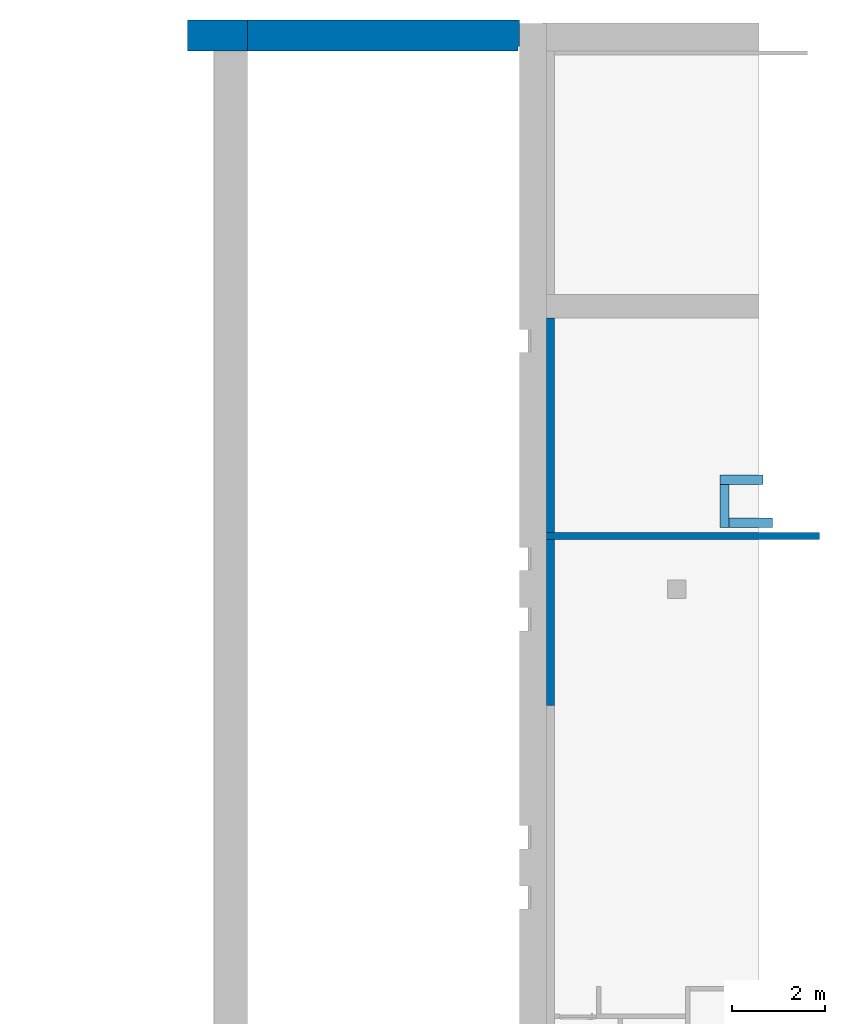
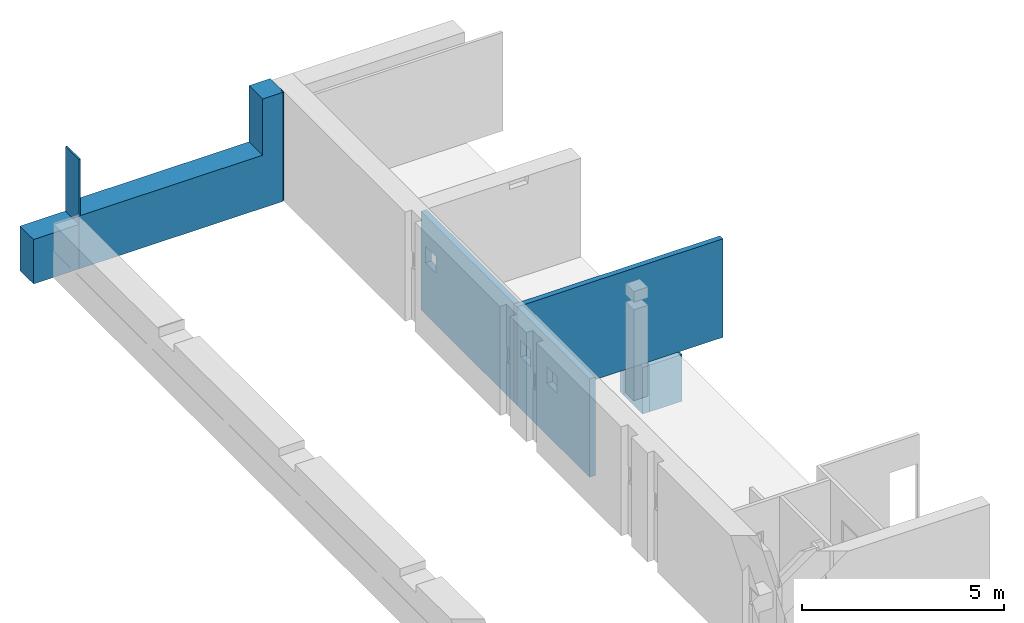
# One storey, part 8 of 11: 7 walls, 18 openings.
"""IFC2X3 building model written with IfcOpenShell, lengths in millimetres."""

from ifc_helpers import new_model, entity, si_unit, converted_unit, derived_unit, direction, frame, frame_2d, origin, origin_2d_with_axis, place, context, subcontext, project, spatial, polyline, circle_curve, parameter, trimmed, segment, composite_curve, rectangle, outline, extrude, material, layer, layer_set, layer_usage, type_object, element, save


model = new_model("IFC2X3")

# Units and contexts
model_context = context("Model", 3, precision=0.01, world=origin(), true_north=direction((6.123031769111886e-17, 1.0)))
body_context = subcontext(model_context, "Body", "Model", "MODEL_VIEW")
ifc_project = project(units=[si_unit("LENGTHUNIT", "METRE", prefix="MILLI"), si_unit("AREAUNIT", "SQUARE_METRE"), si_unit("VOLUMEUNIT", "CUBIC_METRE"), converted_unit("PLANEANGLEUNIT", "DEGREE", entity("IfcPlaneAngleMeasure", 0.017453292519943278), si_unit("PLANEANGLEUNIT", "RADIAN"), dimensions=[0, 0, 0, 0, 0, 0, 0]), si_unit("MASSUNIT", "GRAM", prefix="KILO"), derived_unit("MASSDENSITYUNIT", [(si_unit("MASSUNIT", "GRAM", prefix="KILO"), 1), (si_unit("LENGTHUNIT", "METRE"), -3)]), derived_unit("IONCONCENTRATIONUNIT", [(si_unit("MASSUNIT", "GRAM", prefix="KILO"), 1), (si_unit("LENGTHUNIT", "METRE"), -3)]), derived_unit("MOMENTOFINERTIAUNIT", [(si_unit("LENGTHUNIT", "METRE"), 4)]), si_unit("TIMEUNIT", "SECOND"), si_unit("FREQUENCYUNIT", "HERTZ"), si_unit("THERMODYNAMICTEMPERATUREUNIT", "DEGREE_CELSIUS"), derived_unit("THERMALTRANSMITTANCEUNIT", [(si_unit("MASSUNIT", "GRAM", prefix="KILO"), 1), (si_unit("THERMODYNAMICTEMPERATUREUNIT", "KELVIN"), -1), (si_unit("TIMEUNIT", "SECOND"), -3)]), derived_unit("THERMALCONDUCTANCEUNIT", [(si_unit("MASSUNIT", "GRAM", prefix="KILO"), 1), (si_unit("THERMODYNAMICTEMPERATUREUNIT", "KELVIN"), -1), (si_unit("TIMEUNIT", "SECOND"), -3), (si_unit("LENGTHUNIT", "METRE"), 1)]), derived_unit("VOLUMETRICFLOWRATEUNIT", [(si_unit("LENGTHUNIT", "METRE", prefix="DECI"), 3), (si_unit("TIMEUNIT", "SECOND"), -1)]), derived_unit("MASSFLOWRATEUNIT", [(si_unit("MASSUNIT", "GRAM", prefix="KILO"), 1), (si_unit("TIMEUNIT", "SECOND"), -1)]), derived_unit("ROTATIONALFREQUENCYUNIT", [(si_unit("TIMEUNIT", "SECOND"), -1)]), si_unit("ELECTRICCURRENTUNIT", "AMPERE"), si_unit("ELECTRICVOLTAGEUNIT", "VOLT"), si_unit("POWERUNIT", "WATT"), si_unit("FORCEUNIT", "NEWTON", prefix="KILO"), si_unit("ILLUMINANCEUNIT", "LUX"), si_unit("LUMINOUSFLUXUNIT", "LUMEN"), si_unit("LUMINOUSINTENSITYUNIT", "CANDELA"), si_unit("ENERGYUNIT", "JOULE"), derived_unit("USERDEFINED", [(si_unit("MASSUNIT", "GRAM", prefix="KILO"), -1), (si_unit("LENGTHUNIT", "METRE"), -2), (si_unit("TIMEUNIT", "SECOND"), 3), (si_unit("LUMINOUSFLUXUNIT", "LUMEN"), 1)]), derived_unit("USERDEFINED", [(si_unit("MASSUNIT", "GRAM", prefix="KILO"), 1), (si_unit("TIMEUNIT", "SECOND"), -3), (si_unit("LENGTHUNIT", "METRE"), 3), (si_unit("ELECTRICCURRENTUNIT", "AMPERE"), -2)]), derived_unit("SOUNDPOWERUNIT", [(si_unit("MASSUNIT", "GRAM", prefix="KILO"), 1), (si_unit("TIMEUNIT", "SECOND"), -3), (si_unit("LENGTHUNIT", "METRE"), 2)]), derived_unit("SOUNDPRESSUREUNIT", [(si_unit("MASSUNIT", "GRAM", prefix="KILO"), 1), (si_unit("LENGTHUNIT", "METRE"), -1), (si_unit("TIMEUNIT", "SECOND"), -2)]), derived_unit("LINEARVELOCITYUNIT", [(si_unit("LENGTHUNIT", "METRE"), 1), (si_unit("TIMEUNIT", "SECOND"), -1)]), si_unit("PRESSUREUNIT", "PASCAL"), derived_unit("USERDEFINED", [(si_unit("MASSUNIT", "GRAM", prefix="KILO"), 1), (si_unit("LENGTHUNIT", "METRE"), -2), (si_unit("TIMEUNIT", "SECOND"), -2)]), derived_unit("LINEARFORCEUNIT", [(si_unit("MASSUNIT", "GRAM", prefix="KILO"), 1), (si_unit("TIMEUNIT", "SECOND"), -2)]), derived_unit("PLANARFORCEUNIT", [(si_unit("MASSUNIT", "GRAM", prefix="KILO"), 1), (si_unit("LENGTHUNIT", "METRE"), -1), (si_unit("TIMEUNIT", "SECOND"), -2)]), derived_unit("SPECIFICHEATCAPACITYUNIT", [(si_unit("THERMODYNAMICTEMPERATUREUNIT", "KELVIN"), -1), (si_unit("LENGTHUNIT", "METRE"), 2), (si_unit("TIMEUNIT", "SECOND"), -2)]), derived_unit("HEATFLUXDENSITYUNIT", [(si_unit("MASSUNIT", "GRAM", prefix="KILO"), 1), (si_unit("TIMEUNIT", "SECOND"), -3)]), derived_unit("HEATINGVALUEUNIT", [(si_unit("LENGTHUNIT", "METRE"), 2), (si_unit("TIMEUNIT", "SECOND"), -2)]), derived_unit("VAPORPERMEABILITYUNIT", [(si_unit("LENGTHUNIT", "METRE"), -1), (si_unit("TIMEUNIT", "SECOND"), 1)]), derived_unit("DYNAMICVISCOSITYUNIT", [(si_unit("MASSUNIT", "GRAM", prefix="KILO"), 1), (si_unit("TIMEUNIT", "SECOND"), -1), (si_unit("LENGTHUNIT", "METRE"), -1)]), derived_unit("THERMALEXPANSIONCOEFFICIENTUNIT", [(si_unit("THERMODYNAMICTEMPERATUREUNIT", "KELVIN"), -1)]), derived_unit("MODULUSOFELASTICITYUNIT", [(si_unit("MASSUNIT", "GRAM", prefix="KILO"), 1), (si_unit("LENGTHUNIT", "METRE"), -1), (si_unit("TIMEUNIT", "SECOND"), -2)]), derived_unit("ISOTHERMALMOISTURECAPACITYUNIT", [(si_unit("MASSUNIT", "GRAM", prefix="KILO"), -1), (si_unit("LENGTHUNIT", "METRE"), 3)]), derived_unit("MOISTUREDIFFUSIVITYUNIT", [(si_unit("TIMEUNIT", "SECOND"), -1), (si_unit("LENGTHUNIT", "METRE"), 2)]), derived_unit("MASSPERLENGTHUNIT", [(si_unit("MASSUNIT", "GRAM", prefix="KILO"), 1), (si_unit("LENGTHUNIT", "METRE"), -1)]), derived_unit("THERMALRESISTANCEUNIT", [(si_unit("MASSUNIT", "GRAM", prefix="KILO"), -1), (si_unit("TIMEUNIT", "SECOND"), 3), (si_unit("THERMODYNAMICTEMPERATUREUNIT", "KELVIN"), 1)]), derived_unit("ACCELERATIONUNIT", [(si_unit("LENGTHUNIT", "METRE"), 1), (si_unit("TIMEUNIT", "SECOND"), -2)]), derived_unit("ANGULARVELOCITYUNIT", [(si_unit("TIMEUNIT", "SECOND"), -1), (si_unit("PLANEANGLEUNIT", "RADIAN"), 1)]), derived_unit("LINEARSTIFFNESSUNIT", [(si_unit("MASSUNIT", "GRAM", prefix="KILO"), 1), (si_unit("TIMEUNIT", "SECOND"), -2)]), derived_unit("WARPINGCONSTANTUNIT", [(si_unit("LENGTHUNIT", "METRE"), 6)]), derived_unit("LINEARMOMENTUNIT", [(si_unit("MASSUNIT", "GRAM", prefix="KILO"), 1), (si_unit("LENGTHUNIT", "METRE"), 1), (si_unit("TIMEUNIT", "SECOND"), -2)]), derived_unit("TORQUEUNIT", [(si_unit("MASSUNIT", "GRAM", prefix="KILO"), 1), (si_unit("LENGTHUNIT", "METRE"), 2), (si_unit("TIMEUNIT", "SECOND"), -2)])], contexts=[model_context])

# Site, building, storey
site_placement = place(None, origin())
site = spatial("IfcSite", under=ifc_project, at=site_placement, Name="Default", CompositionType="ELEMENT")
building_placement = place(site_placement, origin())
building = spatial("IfcBuilding", under=site, at=building_placement, Name="Eesti Rahvusraamatukogu hoone renoveerimise projekteerimistööd", CompositionType="ELEMENT")
storey_placement = place(building_placement, frame((0.0, 0.0, -1650.0)))
storey = spatial("IfcBuildingStorey", under=building, at=storey_placement, Name="-1. korrus", CompositionType="ELEMENT", Elevation=-1650.0000000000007)

# Walls
ifc_material_1 = material(Name="ol. olev materjal")
ifc_layer_1 = layer(ifc_material_1, 200.0)
ifc_layer_set_1 = layer_set([ifc_layer_1], Name="Basic Wall:ol. olev - 200mm")
ifc_layer_usage_1 = layer_usage(ifc_layer_set_1, "AXIS2", "NEGATIVE", 100.0)
wall_type_1 = type_object("IfcWallType", Name="Basic Wall:ol. olev - 200mm", PredefinedType="STANDARD", material=ifc_layer_set_1)
wall_1_placement = place(storey_placement, frame((-32455.96849181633, 44748.88927228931, -1730.0)))
element("IfcWallStandardCase", 1, at=wall_1_placement, inside=storey, type_object=wall_type_1, material=ifc_layer_usage_1, Name="Basic Wall:ol. olev - 200mm", ObjectType="Basic Wall:ol. olev - 200mm", context=body_context, shape_type="SweptSolid", body=[
    extrude(rectangle(XDim=929.7950688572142, YDim=200.0000000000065, at=frame_2d((464.8975344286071, 0.0), x_axis=(-1.0, 0.0))), origin(), (0.0, 0.0, 1.0), 1415.0),
])
ifc_layer_usage_2 = layer_usage(ifc_layer_set_1, "AXIS2", "NEGATIVE", 100.0)
wall_2_placement = place(storey_placement, frame((-32355.96849181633, 43718.88927228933, -1730.0), z_axis=(0.0, 0.0, 1.0), x_axis=(0.0, 1.0, 0.0)))
element("IfcWallStandardCase", 2, at=wall_2_placement, inside=storey, type_object=wall_type_1, material=ifc_layer_usage_2, Name="Basic Wall:ol. olev - 200mm", ObjectType="Basic Wall:ol. olev - 200mm", context=body_context, shape_type="SweptSolid", body=[
    extrude(rectangle(XDim=929.9999999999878, YDim=199.99999999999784, at=frame_2d((464.9999999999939, 0.0), x_axis=(-1.0, 0.0))), origin(), (0.0, 0.0, 1.0), 1415.0),
])
ifc_layer_usage_3 = layer_usage(ifc_layer_set_1, "AXIS2", "NEGATIVE", 100.0)
wall_3_placement = place(storey_placement, frame((-31326.173422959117, 43818.88927228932, -1730.0), z_axis=(0.0, 0.0, 1.0), x_axis=(-1.0, 0.0, 0.0)))
element("IfcWallStandardCase", 3, at=wall_3_placement, inside=storey, type_object=wall_type_1, material=ifc_layer_usage_3, Name="Basic Wall:ol. olev - 200mm", ObjectType="Basic Wall:ol. olev - 200mm", context=body_context, shape_type="SweptSolid", body=[
    extrude(rectangle(XDim=929.7950688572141, YDim=200.0000000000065, at=frame_2d((464.89753442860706, -1.9895196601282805e-12), x_axis=(-1.0, 0.0))), origin(), (0.0, 0.0, 1.0), 1415.0),
])

# Wall, openings
ifc_layer_2 = layer(ifc_material_1, 670.0)
ifc_layer_set_2 = layer_set([ifc_layer_2], Name="Basic Wall:ol. olev - 670mm")
ifc_layer_usage_4 = layer_usage(ifc_layer_set_2, "AXIS2", "NEGATIVE", 335.0)
wall_type_2 = type_object("IfcWallType", Name="Basic Wall:ol. olev - 670mm", PredefinedType="STANDARD", material=ifc_layer_set_2)
wall_4_placement = place(storey_placement, frame((-36780.0, 54325.376279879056, 0.0), z_axis=(0.0, 0.0, 1.0), x_axis=(-1.0, 0.0, 0.0)))
wall_4 = element("IfcWallStandardCase", 4, at=wall_4_placement, inside=storey, type_object=wall_type_2, material=ifc_layer_usage_4, Name="Basic Wall:ol. olev - 670mm", ObjectType="Basic Wall:ol. olev - 670mm", context=body_context, shape_type="SweptSolid", body=[
    extrude(rectangle(XDim=5860.000000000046, YDim=670.0000000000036, at=frame_2d((2930.000000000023, -7.389644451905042e-13), x_axis=(-1.0, 0.0))), origin(), (0.0, 0.0, 1.0), 3300.0000000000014),
])
opening_1_placement = place(wall_4_placement, frame((5811.595272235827, 487.400000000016, 1600.0)))
element("IfcOpeningElement", 5, at=opening_1_placement, cuts=wall_4, Name="Basic Wall:ol. olev - 670mm", ObjectType="Opening", context=body_context, shape_type="SweptSolid", body=[
    extrude(outline(composite_curve([segment(polyline([(-874.8853279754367, -2600.0), (874.8853279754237, -2600.0)]), True, "CONTINUOUS"), segment(trimmed(circle_curve(frame_2d((-3998.165894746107, 0.0), x_axis=(0.0, -1.0)), 5523.28056677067), [parameter(61.91799981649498)], [parameter(118.08200018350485)], True, "PARAMETER"), True, "CONTINUOUS"), segment(polyline([(874.8853279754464, 2600.0), (-874.8853279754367, 2600.0)]), True, "CONTINUOUS"), segment(polyline([(-874.8853279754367, 2600.0), (-874.8853279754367, -2600.0)]), True, "CONTINUOUS")], self_intersect=False)), frame((-2601.5952722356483, -974.800000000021, 874.8853279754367), z_axis=(0.0, 1.0, 0.0), x_axis=(0.0, 0.0, 1.0)), (0.0, 0.0, 1.0), 974.8000000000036),
])
opening_2_placement = place(wall_4_placement, frame((0.0, 335.0, 0.0)))
element("IfcOpeningElement", 6, at=opening_2_placement, cuts=wall_4, Name="Basic Wall:ol. olev - 670mm", ObjectType="Recess", context=body_context, shape_type="SweptSolid", body=[
    extrude(rectangle(XDim=3300.0000000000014, YDim=30.000000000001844, at=origin_2d_with_axis()), frame((-15.0, -100.0, 1650.0), z_axis=(0.0, 1.0, 0.0), x_axis=(0.0, 0.0, 1.0)), (0.0, 0.0, 1.0), 100.00000000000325),
])
opening_3_placement = place(wall_4_placement, frame((30.17342295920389, 335.0, 0.0)))
element("IfcOpeningElement", 7, at=opening_3_placement, cuts=wall_4, Name="Basic Wall:ol. olev - 670mm", ObjectType="Recess", context=body_context, shape_type="SweptSolid", body=[
    extrude(rectangle(XDim=3300.0000000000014, YDim=30.000000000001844, at=origin_2d_with_axis()), frame((-15.0, -100.0, 1650.0), z_axis=(0.0, 1.0, 0.0), x_axis=(0.0, 0.0, 1.0)), (0.0, 0.0, 1.0), 100.00000000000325),
])

# Walls
ifc_layer_usage_5 = layer_usage(ifc_layer_set_2, "AXIS2", "NEGATIVE", 335.0)
wall_5_placement = place(storey_placement, frame((-42640.0, 54325.376279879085, 0.0), z_axis=(0.0, 0.0, 1.0), x_axis=(-1.0, 0.0, 0.0)))
element("IfcWallStandardCase", 8, at=wall_5_placement, inside=storey, type_object=wall_type_2, material=ifc_layer_usage_5, Name="Basic Wall:ol. olev - 670mm", ObjectType="Basic Wall:ol. olev - 670mm", context=body_context, shape_type="SweptSolid", body=[
    extrude(rectangle(XDim=1299.9999999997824, YDim=670.0000000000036, at=frame_2d((649.9999999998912, -1.9042545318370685e-12), x_axis=(-1.0, 0.0))), origin(), (0.0, 0.0, 1.0), 1345.0000000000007),
])
ifc_material_2 = material(Name="EST. Müüritis. Väikeplokk. Betoon-õõnesplokk")
ifc_layer_3 = layer(ifc_material_2, 150.0)
ifc_layer_set_3 = layer_set([ifc_layer_3], Name="Basic Wall:SS-71 - 150 poorbetoon acoustic")
ifc_layer_usage_6 = layer_usage(ifc_layer_set_3, "AXIS2", "NEGATIVE", 75.0)
wall_type_3 = type_object("IfcWallType", Name="Basic Wall:SS-71 - 150 poorbetoon acoustic", PredefinedType="STANDARD", material=ifc_layer_set_3)
wall_6_placement = place(storey_placement, frame((-30310.0, 43535.0, 0.0), z_axis=(0.0, 0.0, 1.0), x_axis=(-1.0, 0.0, 0.0)))
element("IfcWallStandardCase", 9, at=wall_6_placement, inside=storey, type_object=wall_type_3, material=ifc_layer_usage_6, Name="Basic Wall:SS-71 - 150 poorbetoon acoustic", ObjectType="Basic Wall:SS-71 - 150 poorbetoon acoustic", context=body_context, shape_type="SweptSolid", body=[
    extrude(rectangle(XDim=5880.173422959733, YDim=150.00000000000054, at=frame_2d((2940.0867114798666, 0.0), x_axis=(-1.0, 0.0))), origin(), (0.0, 0.0, 1.0), 2980.0000000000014),
])

# Wall, openings
ifc_material_3 = material(Name="EST. Ehitusplaat. Kipsplaat")
ifc_layer_4 = layer(ifc_material_3, 14.0)
ifc_material_4 = material(Name="EST. Ehitusplaat. OSB")
ifc_layer_5 = layer(ifc_material_4, 15.0)
ifc_material_5 = material(Name="EST. Õhkvahe. Roov. Kipsplaadi alusroov. Vertikaalne")
ifc_layer_6 = layer(ifc_material_5, 66.0)
ifc_material_6 = material(Name="EST. Soojustus.PIR. Default")
ifc_layer_7 = layer(ifc_material_6, 70.0)
ifc_layer_set_4 = layer_set([ifc_layer_4, ifc_layer_5, ifc_layer_6, ifc_layer_7], Name="Basic Wall:VS-01 - 165 sooj. mitte läbiv")
ifc_layer_usage_7 = layer_usage(ifc_layer_set_4, "AXIS2", "NEGATIVE", 82.49999999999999)
wall_type_4 = type_object("IfcWallType", Name="Basic Wall:VS-01 - 165 sooj. mitte läbiv", PredefinedType="STANDARD", material=ifc_layer_set_4)
wall_7_placement = place(storey_placement, frame((-36107.67342295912, 48230.0, 0.0), z_axis=(0.0, 0.0, 1.0), x_axis=(0.0, -1.0, 0.0)))
wall_7 = element("IfcWallStandardCase", 10, at=wall_7_placement, inside=storey, type_object=wall_type_4, material=ifc_layer_usage_7, Name="Basic Wall:VS-01 - 165 sooj. mitte läbiv", ObjectType="Basic Wall:VS-01 - 165 sooj. mitte läbiv", context=body_context, shape_type="SweptSolid", body=[
    extrude(rectangle(XDim=8355.30857786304, YDim=165.00000000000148, at=frame_2d((4177.65428893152, -2.3945290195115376e-12), x_axis=(-1.0, 0.0))), origin(), (0.0, 0.0, 1.0), 2980.0000000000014),
])
opening_4_placement = place(wall_7_placement, frame((23421.59527223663, -234.90000000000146, 1420.0)))
element("IfcOpeningElement", 11, at=opening_4_placement, cuts=wall_7, Name="Basic Wall:VS-01 - 165 sooj. mitte läbiv", ObjectType="Opening", context=body_context, shape_type="SweptSolid", body=[
    extrude(outline(composite_curve([segment(polyline([(-530.3896667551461, -1100.0), (529.6103332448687, -1100.0)]), True, "CONTINUOUS"), segment(trimmed(circle_curve(frame_2d((-913.267637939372, 1.0228095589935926), x_axis=(0.0, -1.0)), 1814.9788061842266), [parameter(52.653685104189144)], [parameter(127.26512850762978)], True, "PARAMETER"), True, "CONTINUOUS"), segment(polyline([(531.1690002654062, 1100.0), (-530.3896667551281, 1100.0)]), True, "CONTINUOUS"), segment(polyline([(-530.3896667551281, 1100.0), (-530.3896667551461, -1100.0)]), True, "CONTINUOUS")], self_intersect=False)), frame((-1101.5952722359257, 0.0, 530.3896667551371), z_axis=(0.0, 1.0, 0.0), x_axis=(0.0, 0.0, 1.0)), (0.0, 0.0, 1.0), 469.8000000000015),
])
opening_5_placement = place(wall_7_placement, frame((20432.960931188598, -234.90000000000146, 1420.0)))
element("IfcOpeningElement", 12, at=opening_5_placement, cuts=wall_7, Name="Basic Wall:VS-01 - 165 sooj. mitte läbiv", ObjectType="Opening", context=body_context, shape_type="SweptSolid", body=[
    extrude(outline(composite_curve([segment(polyline([(-530.3896667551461, -1100.0), (529.6103332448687, -1100.0)]), True, "CONTINUOUS"), segment(trimmed(circle_curve(frame_2d((-913.267637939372, 1.0228095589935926), x_axis=(0.0, -1.0)), 1814.9788061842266), [parameter(52.653685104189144)], [parameter(127.26512850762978)], True, "PARAMETER"), True, "CONTINUOUS"), segment(polyline([(531.1690002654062, 1100.0), (-530.3896667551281, 1100.0)]), True, "CONTINUOUS"), segment(polyline([(-530.3896667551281, 1100.0), (-530.3896667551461, -1100.0)]), True, "CONTINUOUS")], self_intersect=False)), frame((-1101.5952722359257, 0.0, 530.3896667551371), z_axis=(0.0, 1.0, 0.0), x_axis=(0.0, 0.0, 1.0)), (0.0, 0.0, 1.0), 469.8000000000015),
])
opening_6_placement = place(wall_7_placement, frame((48230.0, 36107.67342295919, 1565.0)))
element("IfcOpeningElement", 13, at=opening_6_placement, cuts=wall_7, Name="Basic Wall:VS-01 - 165 sooj. mitte läbiv", ObjectType="Opening", context=body_context, shape_type="SweptSolid", body=[
    extrude(rectangle(XDim=499.9999999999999, YDim=499.999999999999, at=frame_2d((-4.334310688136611e-12, 0.0), x_axis=(0.0, 1.0))), frame((-47740.0, -37714.17342295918, 250.0), z_axis=(0.0, 1.0, 0.0), x_axis=(-1.0, 0.0, 0.0)), (0.0, 0.0, 1.0), 3048.0),
])
opening_7_placement = place(wall_7_placement, frame((48230.0, 36107.67342295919, 1565.0)))
element("IfcOpeningElement", 14, at=opening_7_placement, cuts=wall_7, Name="Basic Wall:VS-01 - 165 sooj. mitte läbiv", ObjectType="Opening", context=body_context, shape_type="SweptSolid", body=[
    extrude(rectangle(XDim=499.9999999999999, YDim=499.999999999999, at=frame_2d((0.0, -4.334310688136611e-12), x_axis=(1.0, 0.0))), frame((-43040.0, -37714.17342295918, 250.0), z_axis=(0.0, 1.0, 0.0), x_axis=(0.0, 0.0, 1.0)), (0.0, 0.0, 1.0), 3048.0),
])
opening_8_placement = place(wall_7_placement, frame((48230.0, 36107.67342295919, 1565.0)))
element("IfcOpeningElement", 15, at=opening_8_placement, cuts=wall_7, Name="Basic Wall:VS-01 - 165 sooj. mitte läbiv", ObjectType="Opening", context=body_context, shape_type="SweptSolid", body=[
    extrude(rectangle(XDim=499.9999999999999, YDim=499.999999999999, at=frame_2d((-4.334310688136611e-12, 0.0), x_axis=(0.0, 1.0))), frame((-41740.0, -37714.173422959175, 250.0), z_axis=(0.0, 1.0, 0.0), x_axis=(-1.0, 0.0, 0.0)), (0.0, 0.0, 1.0), 3048.0),
])
opening_9_placement = place(wall_7_placement, frame((48230.0, 36107.67342295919, 1565.0)))
element("IfcOpeningElement", 16, at=opening_9_placement, cuts=wall_7, Name="Basic Wall:VS-01 - 165 sooj. mitte läbiv", ObjectType="Opening", context=body_context, shape_type="SweptSolid", body=[
    extrude(rectangle(XDim=499.9999999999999, YDim=499.999999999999, at=origin_2d_with_axis()), frame((-37040.0, -37714.17342295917, 250.0), z_axis=(0.0, 1.0, 0.0), x_axis=(0.0, 0.0, 1.0)), (0.0, 0.0, 1.0), 3048.0),
])
opening_10_placement = place(wall_7_placement, frame((48230.0, 36107.67342295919, 1565.0)))
element("IfcOpeningElement", 17, at=opening_10_placement, cuts=wall_7, Name="Basic Wall:VS-01 - 165 sooj. mitte läbiv", ObjectType="Opening", context=body_context, shape_type="SweptSolid", body=[
    extrude(rectangle(XDim=499.9999999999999, YDim=499.999999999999, at=frame_2d((0.0, 0.0), x_axis=(0.0, 1.0))), frame((-35740.0, -37714.17342295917, 250.0), z_axis=(0.0, 1.0, 0.0), x_axis=(-1.0, 0.0, 0.0)), (0.0, 0.0, 1.0), 3048.0),
])
opening_11_placement = place(wall_7_placement, frame((48230.0, 36107.67342295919, 1565.0)))
element("IfcOpeningElement", 18, at=opening_11_placement, cuts=wall_7, Name="Basic Wall:VS-01 - 165 sooj. mitte läbiv", ObjectType="Opening", context=body_context, shape_type="SweptSolid", body=[
    extrude(rectangle(XDim=499.9999999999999, YDim=499.999999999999, at=origin_2d_with_axis()), frame((-31040.0, -37714.17342295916, 250.0), z_axis=(0.0, 1.0, 0.0), x_axis=(0.0, 0.0, 1.0)), (0.0, 0.0, 1.0), 3048.0),
])
opening_12_placement = place(wall_7_placement, frame((48230.0, 36107.67342295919, 1565.0)))
element("IfcOpeningElement", 19, at=opening_12_placement, cuts=wall_7, Name="Basic Wall:VS-01 - 165 sooj. mitte läbiv", ObjectType="Opening", context=body_context, shape_type="SweptSolid", body=[
    extrude(rectangle(XDim=499.9999999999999, YDim=499.999999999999, at=origin_2d_with_axis()), frame((-19040.0, -37714.17342295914, 250.0), z_axis=(0.0, 1.0, 0.0), x_axis=(0.0, 0.0, 1.0)), (0.0, 0.0, 1.0), 3048.0),
])
opening_13_placement = place(wall_7_placement, frame((48230.0, 36107.67342295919, 1565.0)))
element("IfcOpeningElement", 20, at=opening_13_placement, cuts=wall_7, Name="Basic Wall:VS-01 - 165 sooj. mitte läbiv", ObjectType="Opening", context=body_context, shape_type="SweptSolid", body=[
    extrude(rectangle(XDim=499.9999999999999, YDim=500.00000000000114, at=frame_2d((-1.0800249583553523e-12, 0.0), x_axis=(0.0, 1.0))), frame((-17740.0, -37714.17342295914, 250.0), z_axis=(0.0, 1.0, 0.0), x_axis=(-1.0, 0.0, 0.0)), (0.0, 0.0, 1.0), 3048.0),
])
opening_14_placement = place(wall_7_placement, frame((48230.0, 36107.67342295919, 1565.0)))
element("IfcOpeningElement", 21, at=opening_14_placement, cuts=wall_7, Name="Basic Wall:VS-01 - 165 sooj. mitte läbiv", ObjectType="Opening", context=body_context, shape_type="SweptSolid", body=[
    extrude(rectangle(XDim=499.9999999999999, YDim=499.999999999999, at=origin_2d_with_axis()), frame((-13040.0, -37714.17342295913, 250.0), z_axis=(0.0, 1.0, 0.0), x_axis=(0.0, 0.0, 1.0)), (0.0, 0.0, 1.0), 3048.0),
])
opening_15_placement = place(wall_7_placement, frame((48230.0, 36107.67342295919, 1565.0)))
element("IfcOpeningElement", 22, at=opening_15_placement, cuts=wall_7, Name="Basic Wall:VS-01 - 165 sooj. mitte läbiv", ObjectType="Opening", context=body_context, shape_type="SweptSolid", body=[
    extrude(rectangle(XDim=499.9999999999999, YDim=500.00000000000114, at=frame_2d((1.0800249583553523e-12, 0.0), x_axis=(0.0, 1.0))), frame((-11740.0, -37714.17342295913, 250.0), z_axis=(0.0, 1.0, 0.0), x_axis=(-1.0, 0.0, 0.0)), (0.0, 0.0, 1.0), 3048.0),
])
opening_16_placement = place(wall_7_placement, frame((48230.0, 36107.67342295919, 1565.0)))
element("IfcOpeningElement", 23, at=opening_16_placement, cuts=wall_7, Name="Basic Wall:VS-01 - 165 sooj. mitte läbiv", ObjectType="Opening", context=body_context, shape_type="SweptSolid", body=[
    extrude(rectangle(XDim=499.9999999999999, YDim=500.00000000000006, at=frame_2d((0.0, 5.400124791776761e-13), x_axis=(1.0, 0.0))), frame((-7040.0, -37714.173422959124, 250.0), z_axis=(0.0, 1.0, 0.0), x_axis=(0.0, 0.0, 1.0)), (0.0, 0.0, 1.0), 3048.0),
])
opening_17_placement = place(wall_7_placement, frame((48230.0, 36107.67342295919, 1565.0)))
element("IfcOpeningElement", 24, at=opening_17_placement, cuts=wall_7, Name="Basic Wall:VS-01 - 165 sooj. mitte läbiv", ObjectType="Opening", context=body_context, shape_type="SweptSolid", body=[
    extrude(rectangle(XDim=499.9999999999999, YDim=499.999999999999, at=frame_2d((1.4210854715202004e-14, 0.0), x_axis=(1.0, 0.0))), frame((-23740.0, -37714.17342295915, 250.0), z_axis=(0.0, 1.0, 0.0), x_axis=(0.0, 0.0, 1.0)), (0.0, 0.0, 1.0), 3048.0),
])
opening_18_placement = place(wall_7_placement, frame((48230.0, 36107.67342295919, 1650.0)))
element("IfcOpeningElement", 25, at=opening_18_placement, cuts=wall_7, Name="Basic Wall:VS-01 - 165 sooj. mitte läbiv", ObjectType="Opening", context=body_context, shape_type="SweptSolid", body=[
    extrude(rectangle(XDim=3600.000000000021, YDim=499.999999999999, at=origin_2d_with_axis()), frame((-7040.0, -36790.0, 150.0), z_axis=(0.0, 1.0, 0.0), x_axis=(0.0, 0.0, -1.0)), (0.0, 0.0, 1.0), 199.99999999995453),
    extrude(rectangle(XDim=3600.000000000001, YDim=499.999999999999, at=frame_2d((0.0, -4.334310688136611e-12), x_axis=(1.0, 0.0))), frame((-47740.0, -36790.0, 150.0), z_axis=(0.0, 1.0, 0.0), x_axis=(0.0, 0.0, -1.0)), (0.0, 0.0, 1.0), 199.99999999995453),
    extrude(rectangle(XDim=3599.9999999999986, YDim=499.999999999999, at=frame_2d((0.0, -4.334310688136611e-12), x_axis=(1.0, 0.0))), frame((-43040.0, -36790.0, 150.0), z_axis=(0.0, 1.0, 0.0), x_axis=(0.0, 0.0, -1.0)), (0.0, 0.0, 1.0), 199.99999999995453),
    extrude(rectangle(XDim=3600.0000000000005, YDim=499.999999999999, at=frame_2d((2.2737367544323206e-13, -4.334310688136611e-12), x_axis=(1.0, 0.0))), frame((-41740.0, -36790.0, 150.0), z_axis=(0.0, 1.0, 0.0), x_axis=(0.0, 0.0, -1.0)), (0.0, 0.0, 1.0), 199.99999999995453),
    extrude(rectangle(XDim=3599.999999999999, YDim=499.999999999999, at=origin_2d_with_axis()), frame((-37040.0, -36790.0, 150.0), z_axis=(0.0, 1.0, 0.0), x_axis=(0.0, 0.0, -1.0)), (0.0, 0.0, 1.0), 199.99999999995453),
    extrude(rectangle(XDim=3599.999999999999, YDim=499.999999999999, at=origin_2d_with_axis()), frame((-35740.0, -36790.0, 150.0), z_axis=(0.0, 1.0, 0.0), x_axis=(0.0, 0.0, -1.0)), (0.0, 0.0, 1.0), 199.99999999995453),
    extrude(rectangle(XDim=3599.9999999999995, YDim=499.999999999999, at=frame_2d((-2.2737367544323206e-13, 0.0), x_axis=(1.0, 0.0))), frame((-31040.0, -36790.0, 150.0), z_axis=(0.0, 1.0, 0.0), x_axis=(0.0, 0.0, -1.0)), (0.0, 0.0, 1.0), 199.99999999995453),
    extrude(rectangle(XDim=3600.000000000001, YDim=499.999999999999, at=origin_2d_with_axis()), frame((-23740.0, -36790.0, 150.0), z_axis=(0.0, 1.0, 0.0), x_axis=(0.0, 0.0, -1.0)), (0.0, 0.0, 1.0), 199.99999999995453),
    extrude(rectangle(XDim=3600.0000000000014, YDim=500.0000000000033, at=frame_2d((-2.2737367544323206e-13, 2.1600499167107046e-12), x_axis=(1.0, 0.0))), frame((-19040.0, -36790.0, 150.0), z_axis=(0.0, 1.0, 0.0), x_axis=(0.0, 0.0, -1.0)), (0.0, 0.0, 1.0), 199.99999999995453),
    extrude(rectangle(XDim=3600.000000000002, YDim=499.999999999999, at=origin_2d_with_axis()), frame((-17740.0, -36790.0, 150.0), z_axis=(0.0, 1.0, 0.0), x_axis=(0.0, 0.0, -1.0)), (0.0, 0.0, 1.0), 199.99999999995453),
    extrude(rectangle(XDim=3600.0000000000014, YDim=500.0000000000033, at=origin_2d_with_axis()), frame((-13040.0, -36790.0, 150.0), z_axis=(0.0, 1.0, 0.0), x_axis=(0.0, 0.0, -1.0)), (0.0, 0.0, 1.0), 199.99999999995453),
    extrude(rectangle(XDim=3600.0000000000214, YDim=499.999999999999, at=origin_2d_with_axis()), frame((-11740.0, -36790.0, 150.0), z_axis=(0.0, 1.0, 0.0), x_axis=(0.0, 0.0, -1.0)), (0.0, 0.0, 1.0), 199.99999999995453),
])

save(model, "model.ifc")
